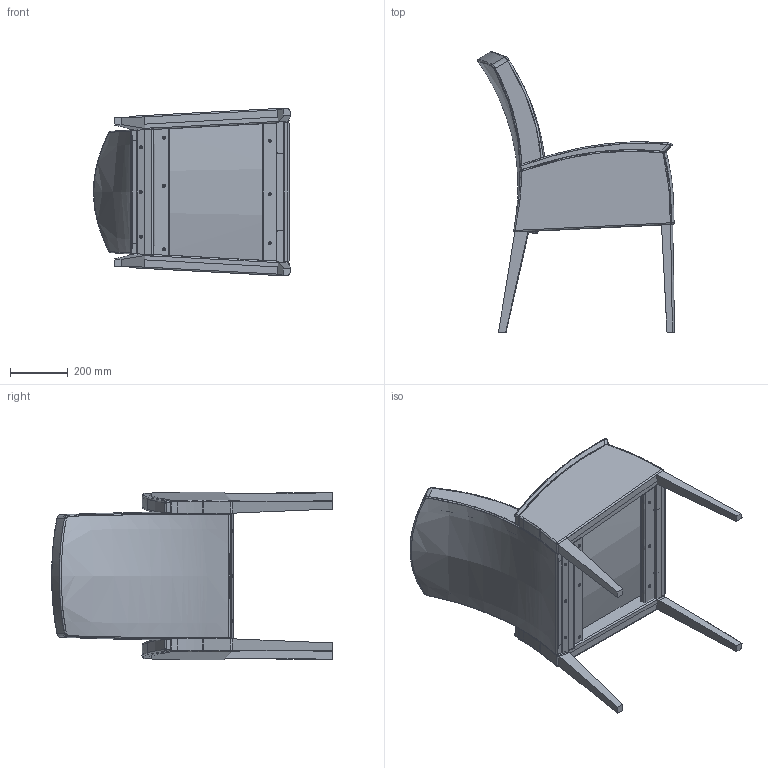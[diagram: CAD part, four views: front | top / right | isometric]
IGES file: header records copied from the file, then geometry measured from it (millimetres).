
Start section: SolidWorks IGES file using analytic representation for surfaces
Global section: file name: C:\Users\emanuel\Desktop\Siana_3D\Regina SG829HG.IGS; native system: SolidWorks 2015; preprocessor: SolidWorks 2015; author: Emanuel; date: 151113.152011; units: millimetre
Bounding box: 683.96 x 974.03 x 582.97 mm (x, y, z)
Surface area: 4104923 mm2 (no closed solid volume)
Topology: 0 solids, 0 shells, 1248 faces, 21027 edges, 21019 vertices
Faces by surface type: bspline 680, revolution 568
